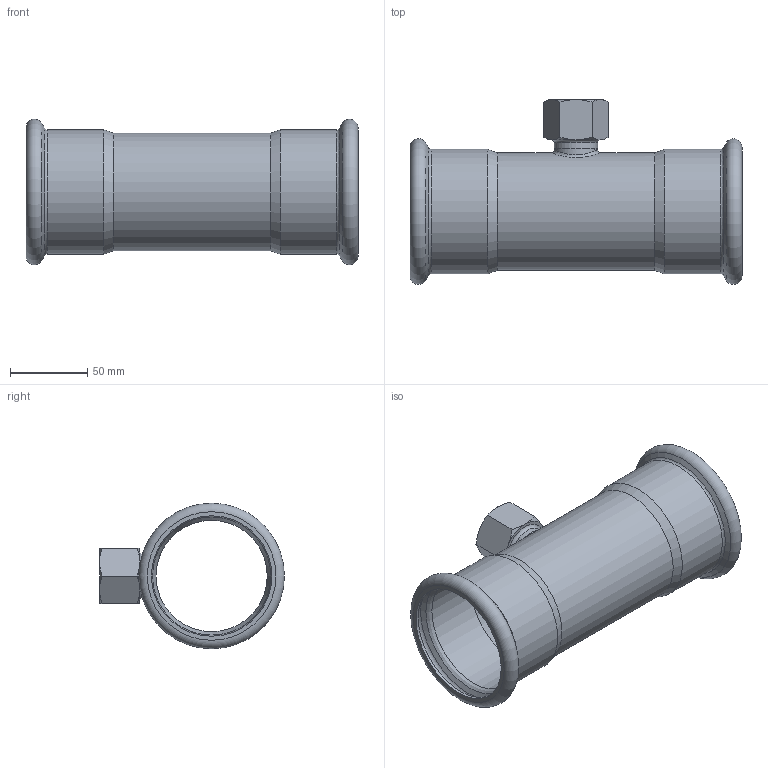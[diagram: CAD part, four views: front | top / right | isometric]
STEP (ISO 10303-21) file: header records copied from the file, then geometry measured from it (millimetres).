
FILE_DESCRIPTION((''),'2;1');
FILE_NAME('G:\Nirosan-Schmiedefeld\Technics\CAD\001 Serie 9.000\076\69130g76176H(0).stp','2018-10-16T11:04:31',('herberg'),(''),'Autodesk Inventor 2009','Autodesk Inventor 2009','');
FILE_SCHEMA(('AUTOMOTIVE_DESIGN { 1 0 10303 214 1 1 1 1 }'));
Length unit declared in the file: millimetre
Products named in the file (3): 69130g76176H(0); 69LM76_28P(0); 69ATIG281P(0)
Assembly tree (2 placements, depth 2):
  69130g76176H(0)
    69LM76_28P(0)
    69ATIG281P(0)
Bounding box: 215 x 119.7 x 94.3 mm (x, y, z)
Volume: 124482.3 mm3; surface area: 121266.1 mm2
Topology: 2 solids, 2 shells, 60 faces, 125 edges, 73 vertices
Faces by surface type: cone 21, plane 14, cylinder 11, bspline 10, torus 4
Full cylindrical faces by diameter (mm): 24 x1, 28 x2, 72.1 x1, 76.1 x1, 76.6 x2, 78 x2, 80.6 x2
Entity records: 2994 total; most frequent: CARTESIAN_POINT 1887, DIRECTION 218, ORIENTED_EDGE 172, AXIS2_PLACEMENT_3D 106, EDGE_LOOP 102, EDGE_CURVE 86, VERTEX_POINT 66, FACE_OUTER_BOUND 60
